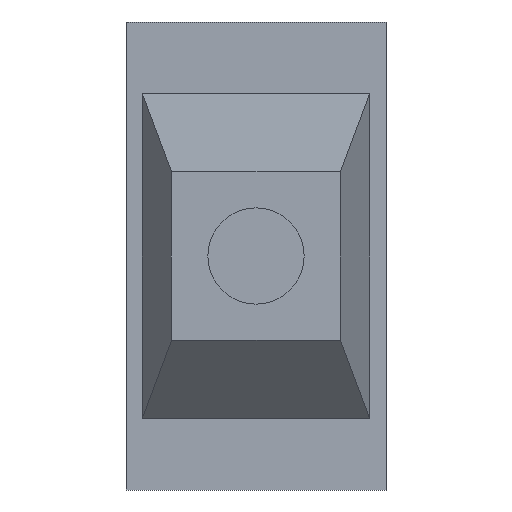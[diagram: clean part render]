
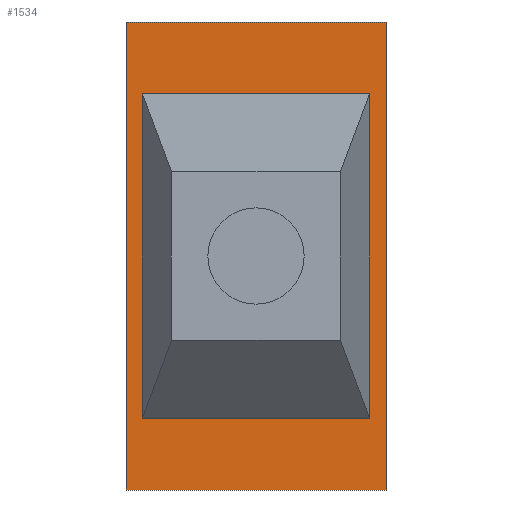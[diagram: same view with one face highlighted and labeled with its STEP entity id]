
A CAD part, front view. The second image highlights one B-rep face of the part: STEP entity #1534.
In plain terms, the highlighted planar face has unit normal (0, -1, 0).
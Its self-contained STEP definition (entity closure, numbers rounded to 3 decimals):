
#64 = CARTESIAN_POINT ( 'NONE',  ( -4.375, -12.5, -2.75 ) ) ;
#67 = VECTOR ( 'NONE', #758, 1000. ) ;
#72 = CARTESIAN_POINT ( 'NONE',  ( 5., -12.5, 0. ) ) ;
#101 = LINE ( 'NONE', #887, #67 ) ;
#130 = ORIENTED_EDGE ( 'NONE', *, *, #1433, .F. ) ;
#189 = CARTESIAN_POINT ( 'NONE',  ( -5., -12.5, 0. ) ) ;
#210 = LINE ( 'NONE', #384, #935 ) ;
#221 = ORIENTED_EDGE ( 'NONE', *, *, #1464, .F. ) ;
#246 = EDGE_LOOP ( 'NONE', ( #1678, #1010, #1439, #544 ) ) ;
#279 = PLANE ( 'NONE',  #451 ) ;
#282 = VERTEX_POINT ( 'NONE', #1137 ) ;
#292 = VECTOR ( 'NONE', #1310, 1000. ) ;
#305 = CARTESIAN_POINT ( 'NONE',  ( -4.375, -12.5, -15.25 ) ) ;
#335 = EDGE_CURVE ( 'NONE', #1641, #921, #1259, .T. ) ;
#371 = VECTOR ( 'NONE', #1167, 1000. ) ;
#384 = CARTESIAN_POINT ( 'NONE',  ( 5., -12.5, 0. ) ) ;
#408 = DIRECTION ( 'NONE',  ( 0., 0., 1. ) ) ;
#415 = CARTESIAN_POINT ( 'NONE',  ( 4.375, -12.5, -15.25 ) ) ;
#433 = DIRECTION ( 'NONE',  ( 0., 0., -1. ) ) ;
#451 = AXIS2_PLACEMENT_3D ( 'NONE', #1178, #1317, #542 ) ;
#455 = EDGE_CURVE ( 'NONE', #282, #1627, #1194, .T. ) ;
#493 = FACE_OUTER_BOUND ( 'NONE', #246, .T. ) ;
#534 = VECTOR ( 'NONE', #1080, 1000. ) ;
#542 = DIRECTION ( 'NONE',  ( 0., 0., 1. ) ) ;
#544 = ORIENTED_EDGE ( 'NONE', *, *, #455, .T. ) ;
#566 = CARTESIAN_POINT ( 'NONE',  ( 5., -12.5, -18. ) ) ;
#574 = LINE ( 'NONE', #64, #955 ) ;
#673 = LINE ( 'NONE', #1537, #371 ) ;
#724 = EDGE_CURVE ( 'NONE', #1319, #1363, #574, .T. ) ;
#726 = VERTEX_POINT ( 'NONE', #72 ) ;
#758 = DIRECTION ( 'NONE',  ( 0., 0., -1. ) ) ;
#768 = ORIENTED_EDGE ( 'NONE', *, *, #724, .F. ) ;
#839 = LINE ( 'NONE', #566, #534 ) ;
#883 = ORIENTED_EDGE ( 'NONE', *, *, #335, .F. ) ;
#887 = CARTESIAN_POINT ( 'NONE',  ( 5., -12.5, 0. ) ) ;
#895 = EDGE_CURVE ( 'NONE', #726, #282, #210, .T. ) ;
#916 = CARTESIAN_POINT ( 'NONE',  ( -4.375, -12.5, -15.25 ) ) ;
#921 = VERTEX_POINT ( 'NONE', #1291 ) ;
#935 = VECTOR ( 'NONE', #1426, 1000. ) ;
#955 = VECTOR ( 'NONE', #1332, 1000. ) ;
#1010 = ORIENTED_EDGE ( 'NONE', *, *, #1034, .F. ) ;
#1034 = EDGE_CURVE ( 'NONE', #726, #1043, #101, .T. ) ;
#1043 = VERTEX_POINT ( 'NONE', #1134 ) ;
#1048 = CARTESIAN_POINT ( 'NONE',  ( 4.375, -12.5, -2.75 ) ) ;
#1080 = DIRECTION ( 'NONE',  ( -1., 0., 0. ) ) ;
#1094 = CARTESIAN_POINT ( 'NONE',  ( -4.375, -12.5, -2.75 ) ) ;
#1119 = EDGE_CURVE ( 'NONE', #1043, #1627, #839, .T. ) ;
#1134 = CARTESIAN_POINT ( 'NONE',  ( 5., -12.5, -18. ) ) ;
#1137 = CARTESIAN_POINT ( 'NONE',  ( -5., -12.5, 0. ) ) ;
#1167 = DIRECTION ( 'NONE',  ( -1., 0., 0. ) ) ;
#1178 = CARTESIAN_POINT ( 'NONE',  ( 5., -12.5, 0. ) ) ;
#1194 = LINE ( 'NONE', #189, #1546 ) ;
#1259 = LINE ( 'NONE', #1048, #1647 ) ;
#1270 = EDGE_LOOP ( 'NONE', ( #883, #130, #768, #221 ) ) ;
#1291 = CARTESIAN_POINT ( 'NONE',  ( 4.375, -12.5, -2.75 ) ) ;
#1310 = DIRECTION ( 'NONE',  ( 1., 0., 0. ) ) ;
#1317 = DIRECTION ( 'NONE',  ( 0., 1., 0. ) ) ;
#1319 = VERTEX_POINT ( 'NONE', #1094 ) ;
#1327 = LINE ( 'NONE', #916, #292 ) ;
#1332 = DIRECTION ( 'NONE',  ( 0., 0., -1. ) ) ;
#1363 = VERTEX_POINT ( 'NONE', #305 ) ;
#1426 = DIRECTION ( 'NONE',  ( -1., 0., 0. ) ) ;
#1433 = EDGE_CURVE ( 'NONE', #1363, #1641, #1327, .T. ) ;
#1439 = ORIENTED_EDGE ( 'NONE', *, *, #895, .T. ) ;
#1464 = EDGE_CURVE ( 'NONE', #921, #1319, #673, .T. ) ;
#1497 = FACE_BOUND ( 'NONE', #1270, .T. ) ;
#1534 = ADVANCED_FACE ( 'NONE', ( #493, #1497 ), #279, .F. ) ;
#1537 = CARTESIAN_POINT ( 'NONE',  ( -4.375, -12.5, -2.75 ) ) ;
#1546 = VECTOR ( 'NONE', #433, 1000. ) ;
#1589 = CARTESIAN_POINT ( 'NONE',  ( -5., -12.5, -18. ) ) ;
#1627 = VERTEX_POINT ( 'NONE', #1589 ) ;
#1641 = VERTEX_POINT ( 'NONE', #415 ) ;
#1647 = VECTOR ( 'NONE', #408, 1000. ) ;
#1678 = ORIENTED_EDGE ( 'NONE', *, *, #1119, .F. ) ;
